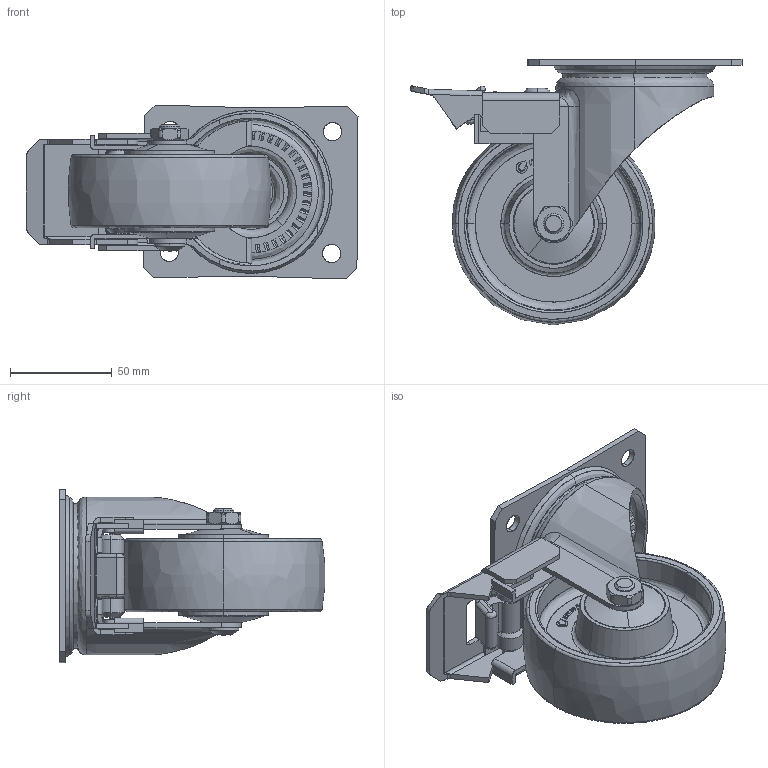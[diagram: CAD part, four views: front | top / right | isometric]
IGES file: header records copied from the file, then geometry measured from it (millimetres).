
Start section: SolidWorks IGES file using analytic representation for surfaces
Global section: file name: S:\Tyokansio\VL\LK\400385_IGES.IGS; native system: SolidWorks 2011; preprocessor: SolidWorks 2011; author: VilleLa; date: 110829.084521; units: millimetre
Bounding box: 163.52 x 130.86 x 85.66 mm (x, y, z)
Surface area: 107343.3 mm2 (no closed solid volume)
Topology: 0 solids, 0 shells, 592 faces, 9269 edges, 9267 vertices
Faces by surface type: bspline 372, revolution 220
